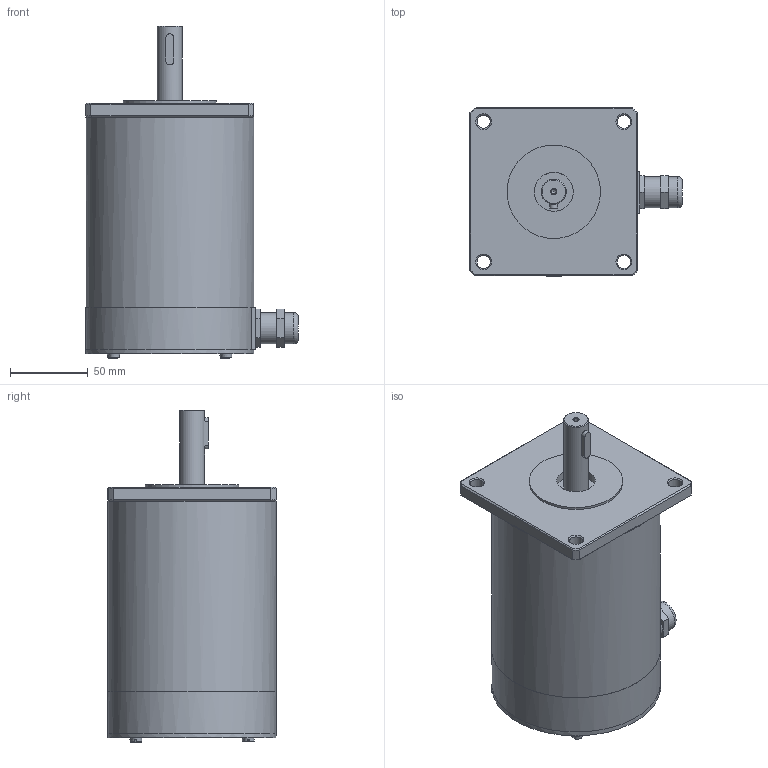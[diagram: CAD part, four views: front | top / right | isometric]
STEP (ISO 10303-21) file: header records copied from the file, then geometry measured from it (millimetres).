
FILE_DESCRIPTION((''),'2;1');
FILE_NAME('C:\Users\Reinhard\Documents\Inventor\Testschrittmotor\SM107\SM 107.2-KV_Konturvereinfachung_1.stp','2014-02-14T16:43:09',('Reinhard'),(''),'Autodesk Inventor 2012','Autodesk Inventor 2012','');
FILE_SCHEMA(('CONFIG_CONTROL_DESIGN'));
Length unit declared in the file: millimetre
Products named in the file (1): SM 107
Bounding box: 136.57 x 108.07 x 213.1 mm (x, y, z)
Volume: 270474.3 mm3; surface area: 154406.8 mm2
Topology: 2 solids, 6 shells, 170 faces, 385 edges, 238 vertices
Faces by surface type: plane 90, cylinder 37, cone 28, torus 9, bspline 6
Full cylindrical faces by diameter (mm): 3 x1, 3.571 x4, 4 x4, 8.5 x4, 12 x1, 13 x2, 15 x1, 16 x1, 18.376 x1, 20 x3, 25 x1, 60 x1, 95 x1, 96 x1, 99.472 x1, 104.734 x1, 108 x1, 108.146 x1
Entity records: 4932 total; most frequent: CARTESIAN_POINT 1203, DIRECTION 775, ORIENTED_EDGE 640, AXIS2_PLACEMENT_3D 331, EDGE_CURVE 320, EDGE_LOOP 252, VERTEX_POINT 224, FACE_OUTER_BOUND 170
